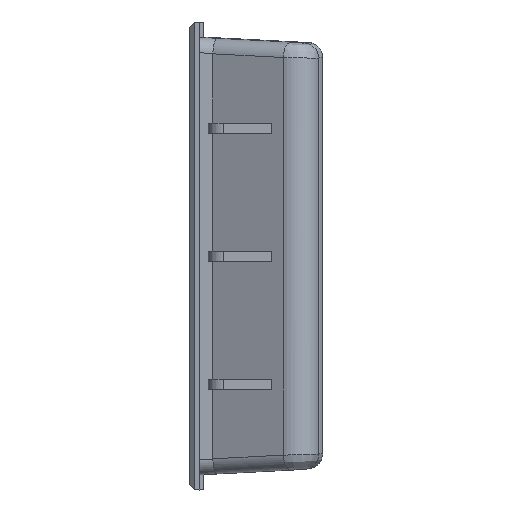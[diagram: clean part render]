
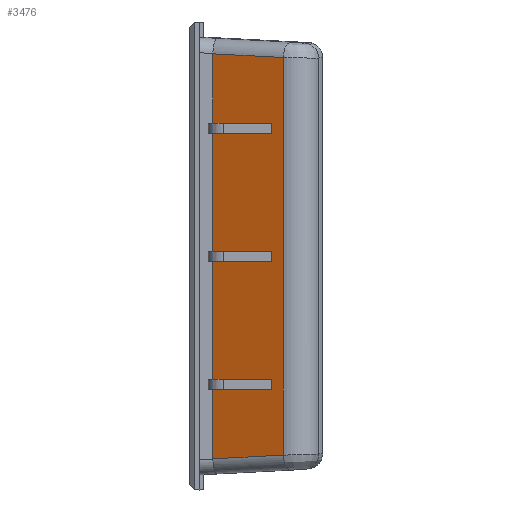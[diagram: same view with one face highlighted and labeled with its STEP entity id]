
A CAD part, left-side view. The second image highlights one B-rep face of the part: STEP entity #3476.
In plain terms, the highlighted planar face has unit normal (-0.906, 0.423, 0).
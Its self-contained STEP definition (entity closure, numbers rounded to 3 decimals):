
#448=FACE_OUTER_BOUND('',#645,.T.);
#645=EDGE_LOOP('',(#2826,#2827,#2828,#2829,#2830,#2831,#2832,#2833,#2834,
#2835,#2836,#2837,#2838,#2839,#2840,#2841));
#943=LINE('',#5844,#1303);
#947=LINE('',#5852,#1307);
#951=LINE('',#5860,#1311);
#954=LINE('',#5868,#1314);
#955=LINE('',#5871,#1315);
#958=LINE('',#5879,#1318);
#959=LINE('',#5881,#1319);
#960=LINE('',#5882,#1320);
#961=LINE('',#5884,#1321);
#962=LINE('',#5886,#1322);
#963=LINE('',#5887,#1323);
#964=LINE('',#5889,#1324);
#965=LINE('',#5891,#1325);
#966=LINE('',#5892,#1326);
#967=LINE('',#5894,#1327);
#968=LINE('',#5895,#1328);
#1303=VECTOR('',#4410,23.5);
#1307=VECTOR('',#4414,23.5);
#1311=VECTOR('',#4418,13.791);
#1314=VECTOR('',#4425,13.791);
#1315=VECTOR('',#4428,12.841);
#1318=VECTOR('',#4435,15.502);
#1319=VECTOR('',#4436,79.112);
#1320=VECTOR('',#4437,15.502);
#1321=VECTOR('',#4438,12.841);
#1322=VECTOR('',#4439,2.);
#1323=VECTOR('',#4440,12.841);
#1324=VECTOR('',#4441,12.841);
#1325=VECTOR('',#4442,2.);
#1326=VECTOR('',#4443,12.841);
#1327=VECTOR('',#4444,12.841);
#1328=VECTOR('',#4445,2.);
#1638=VERTEX_POINT('',#5836);
#1641=VERTEX_POINT('',#5841);
#1642=VERTEX_POINT('',#5843);
#1645=VERTEX_POINT('',#5849);
#1646=VERTEX_POINT('',#5851);
#1649=VERTEX_POINT('',#5857);
#1650=VERTEX_POINT('',#5859);
#1653=VERTEX_POINT('',#5866);
#1654=VERTEX_POINT('',#5870);
#1657=VERTEX_POINT('',#5878);
#1658=VERTEX_POINT('',#5880);
#1659=VERTEX_POINT('',#5883);
#1660=VERTEX_POINT('',#5885);
#1661=VERTEX_POINT('',#5888);
#1662=VERTEX_POINT('',#5890);
#1663=VERTEX_POINT('',#5893);
#2051=EDGE_CURVE('',#1641,#1642,#943,.T.);
#2055=EDGE_CURVE('',#1645,#1646,#947,.T.);
#2059=EDGE_CURVE('',#1649,#1650,#951,.T.);
#2064=EDGE_CURVE('',#1653,#1638,#954,.T.);
#2065=EDGE_CURVE('',#1638,#1654,#955,.T.);
#2069=EDGE_CURVE('',#1657,#1653,#958,.T.);
#2070=EDGE_CURVE('',#1657,#1658,#959,.T.);
#2071=EDGE_CURVE('',#1650,#1658,#960,.T.);
#2072=EDGE_CURVE('',#1649,#1659,#961,.T.);
#2073=EDGE_CURVE('',#1660,#1659,#962,.T.);
#2074=EDGE_CURVE('',#1646,#1660,#963,.T.);
#2075=EDGE_CURVE('',#1645,#1661,#964,.T.);
#2076=EDGE_CURVE('',#1662,#1661,#965,.T.);
#2077=EDGE_CURVE('',#1642,#1662,#966,.T.);
#2078=EDGE_CURVE('',#1641,#1663,#967,.T.);
#2079=EDGE_CURVE('',#1654,#1663,#968,.T.);
#2826=ORIENTED_EDGE('',*,*,#2065,.F.);
#2827=ORIENTED_EDGE('',*,*,#2064,.F.);
#2828=ORIENTED_EDGE('',*,*,#2069,.F.);
#2829=ORIENTED_EDGE('',*,*,#2070,.T.);
#2830=ORIENTED_EDGE('',*,*,#2071,.F.);
#2831=ORIENTED_EDGE('',*,*,#2059,.F.);
#2832=ORIENTED_EDGE('',*,*,#2072,.T.);
#2833=ORIENTED_EDGE('',*,*,#2073,.F.);
#2834=ORIENTED_EDGE('',*,*,#2074,.F.);
#2835=ORIENTED_EDGE('',*,*,#2055,.F.);
#2836=ORIENTED_EDGE('',*,*,#2075,.T.);
#2837=ORIENTED_EDGE('',*,*,#2076,.F.);
#2838=ORIENTED_EDGE('',*,*,#2077,.F.);
#2839=ORIENTED_EDGE('',*,*,#2051,.F.);
#2840=ORIENTED_EDGE('',*,*,#2078,.T.);
#2841=ORIENTED_EDGE('',*,*,#2079,.F.);
#3322=PLANE('',#3736);
#3476=ADVANCED_FACE('',(#448),#3322,.T.);
#3736=AXIS2_PLACEMENT_3D('',#5877,#4433,#4434);
#4410=DIRECTION('',(0.,0.,1.));
#4414=DIRECTION('',(0.,0.,1.));
#4418=DIRECTION('',(0.,0.,1.));
#4425=DIRECTION('',(0.,0.,1.));
#4428=DIRECTION('',(-0.423,-0.906,0.));
#4433=DIRECTION('center_axis',(-0.906,0.423,0.));
#4434=DIRECTION('ref_axis',(0.,0.,1.));
#4435=DIRECTION('',(0.422,0.905,-0.047));
#4436=DIRECTION('',(0.,0.,1.));
#4437=DIRECTION('',(-0.422,-0.905,-0.047));
#4438=DIRECTION('',(-0.423,-0.906,0.));
#4439=DIRECTION('',(0.,0.,1.));
#4440=DIRECTION('',(-0.423,-0.906,0.));
#4441=DIRECTION('',(-0.423,-0.906,0.));
#4442=DIRECTION('',(0.,0.,1.));
#4443=DIRECTION('',(-0.423,-0.906,0.));
#4444=DIRECTION('',(-0.423,-0.906,0.));
#4445=DIRECTION('',(0.,0.,1.));
#5836=CARTESIAN_POINT('',(-15.525,-2.636,-26.5));
#5841=CARTESIAN_POINT('',(-15.525,-2.636,-24.5));
#5843=CARTESIAN_POINT('',(-15.525,-2.636,-1.));
#5844=CARTESIAN_POINT('',(-15.525,-2.636,-24.5));
#5849=CARTESIAN_POINT('',(-15.525,-2.636,1.));
#5851=CARTESIAN_POINT('',(-15.525,-2.636,24.5));
#5852=CARTESIAN_POINT('',(-15.525,-2.636,1.));
#5857=CARTESIAN_POINT('',(-15.525,-2.636,26.5));
#5859=CARTESIAN_POINT('',(-15.525,-2.636,40.291));
#5860=CARTESIAN_POINT('',(-15.525,-2.636,26.5));
#5866=CARTESIAN_POINT('',(-15.525,-2.636,-40.291));
#5868=CARTESIAN_POINT('',(-15.525,-2.636,-40.291));
#5870=CARTESIAN_POINT('',(-20.952,-14.274,-26.5));
#5871=CARTESIAN_POINT('',(-15.525,-2.636,-26.5));
#5877=CARTESIAN_POINT('Origin',(-15.525,-2.636,-43.5));
#5878=CARTESIAN_POINT('',(-22.069,-16.67,-39.556));
#5879=CARTESIAN_POINT('',(-22.069,-16.67,-39.556));
#5880=CARTESIAN_POINT('',(-22.069,-16.67,39.556));
#5881=CARTESIAN_POINT('',(-22.069,-16.67,-39.556));
#5882=CARTESIAN_POINT('',(-15.525,-2.636,40.291));
#5883=CARTESIAN_POINT('',(-20.952,-14.274,26.5));
#5884=CARTESIAN_POINT('',(-15.525,-2.636,26.5));
#5885=CARTESIAN_POINT('',(-20.952,-14.274,24.5));
#5886=CARTESIAN_POINT('',(-20.952,-14.274,24.5));
#5887=CARTESIAN_POINT('',(-15.525,-2.636,24.5));
#5888=CARTESIAN_POINT('',(-20.952,-14.274,1.));
#5889=CARTESIAN_POINT('',(-15.525,-2.636,1.));
#5890=CARTESIAN_POINT('',(-20.952,-14.274,-1.));
#5891=CARTESIAN_POINT('',(-20.952,-14.274,-1.));
#5892=CARTESIAN_POINT('',(-15.525,-2.636,-1.));
#5893=CARTESIAN_POINT('',(-20.952,-14.274,-24.5));
#5894=CARTESIAN_POINT('',(-15.525,-2.636,-24.5));
#5895=CARTESIAN_POINT('',(-20.952,-14.274,-26.5));
